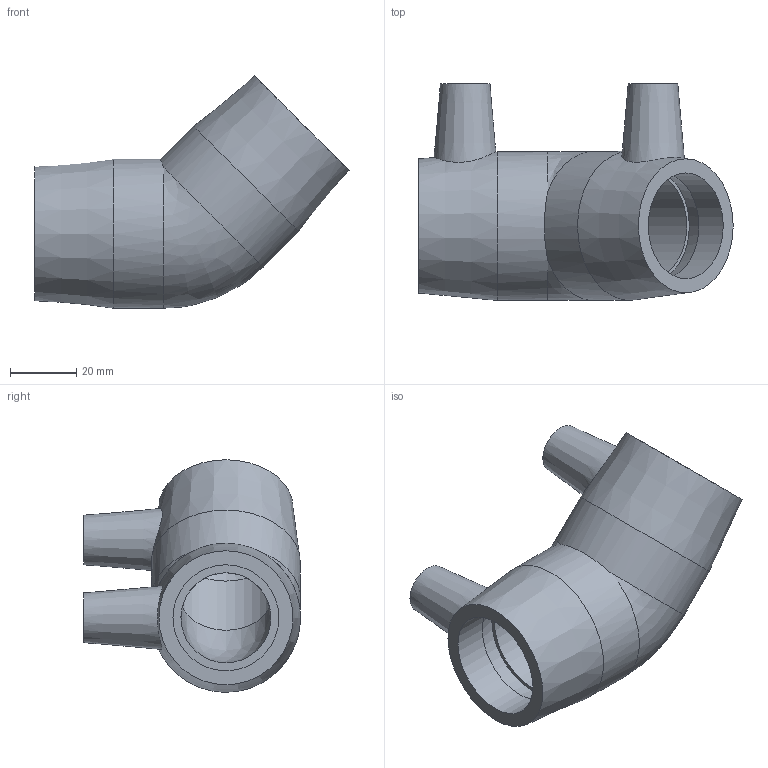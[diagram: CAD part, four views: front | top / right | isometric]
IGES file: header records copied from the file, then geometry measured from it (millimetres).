
Global section: file name: 490604032.ipt; native system: Autodesk Inventor 2015; preprocessor: unknown; author: KIM; date: 20171106.093648; units: millimetre
Bounding box: 95 x 65.5 x 70.24 mm (x, y, z)
Volume: 77464 mm3; surface area: 27161.2 mm2
Topology: 1 solids, 1 shells, 30 faces, 68 edges, 46 vertices
Faces by surface type: plane 12, revolution 9, cylinder 4, cone 4, bspline 1
Full cylindrical faces by diameter (mm): 4 x2, 45 x2
